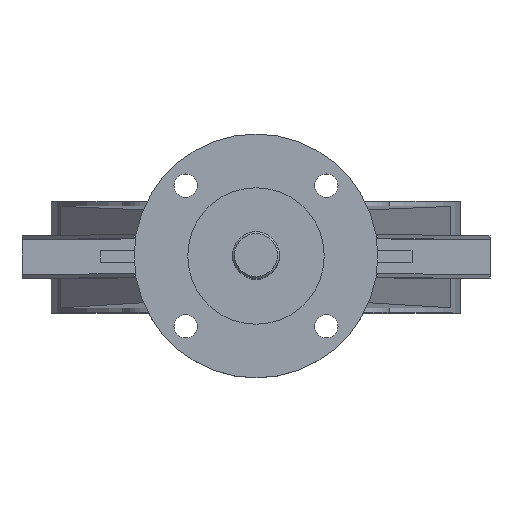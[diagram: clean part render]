
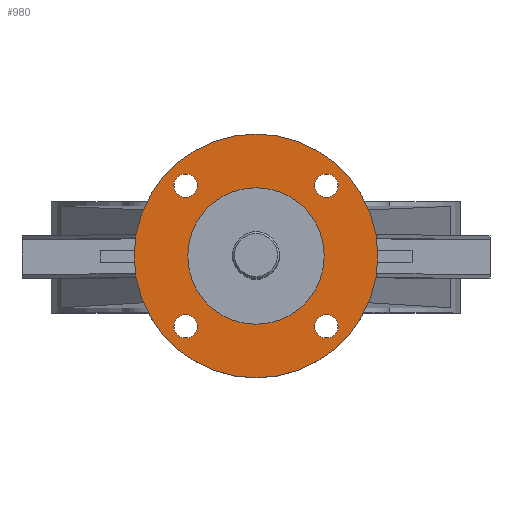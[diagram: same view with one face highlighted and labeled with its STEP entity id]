
A CAD part, top view. The second image highlights one B-rep face of the part: STEP entity #980.
In plain terms, the highlighted planar face has unit normal (0, 0, 1).
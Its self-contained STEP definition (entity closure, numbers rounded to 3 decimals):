
#980=ADVANCED_FACE('',(#2231,#2233,#2235,#2237,#2239,#2241),#2243,.T.);
#2231=FACE_BOUND('',#2232,.T.);
#2232=EDGE_LOOP('',(#3267));
#2233=FACE_BOUND('',#2234,.T.);
#2234=EDGE_LOOP('',(#3268));
#2235=FACE_BOUND('',#2236,.T.);
#2236=EDGE_LOOP('',(#3269));
#2237=FACE_BOUND('',#2238,.T.);
#2238=EDGE_LOOP('',(#3270));
#2239=FACE_BOUND('',#2240,.T.);
#2240=EDGE_LOOP('',(#3271));
#2241=FACE_BOUND('',#2242,.T.);
#2242=EDGE_LOOP('',(#3272));
#2243=PLANE('',#2244);
#2244=AXIS2_PLACEMENT_3D('',#2245,#2246,#2247);
#2245=CARTESIAN_POINT('',(0.,0.,456.));
#2246=DIRECTION('',(0.,0.,1.));
#2247=DIRECTION('',(-1.,0.,0.));
#3267=ORIENTED_EDGE('',*,*,#3683,.T.);
#3268=ORIENTED_EDGE('',*,*,#3684,.T.);
#3269=ORIENTED_EDGE('',*,*,#3685,.T.);
#3270=ORIENTED_EDGE('',*,*,#3686,.T.);
#3271=ORIENTED_EDGE('',*,*,#3807,.T.);
#3272=ORIENTED_EDGE('',*,*,#3687,.T.);
#3683=EDGE_CURVE('',#4259,#4259,#4260,.T.);
#3684=EDGE_CURVE('',#4261,#4261,#4262,.F.);
#3685=EDGE_CURVE('',#4263,#4263,#4264,.F.);
#3686=EDGE_CURVE('',#4265,#4265,#4266,.F.);
#3687=EDGE_CURVE('',#4267,#4267,#4268,.F.);
#3807=EDGE_CURVE('',#4474,#4474,#4475,.F.);
#4259=VERTEX_POINT('',#5477);
#4260=CIRCLE('',#5478,62.5);
#4261=VERTEX_POINT('',#5482);
#4262=CIRCLE('',#5483,6.);
#4263=VERTEX_POINT('',#5487);
#4264=CIRCLE('',#5488,6.);
#4265=VERTEX_POINT('',#5492);
#4266=CIRCLE('',#5493,6.);
#4267=VERTEX_POINT('',#5497);
#4268=CIRCLE('',#5498,6.);
#4474=VERTEX_POINT('',#6002);
#4475=CIRCLE('',#6003,35.);
#5477=CARTESIAN_POINT('',(-62.5,0.,456.));
#5478=AXIS2_PLACEMENT_3D('',#5479,#5480,#5481);
#5479=CARTESIAN_POINT('',(0.,0.,456.));
#5480=DIRECTION('',(0.,0.,1.));
#5481=DIRECTION('',(-1.,0.,0.));
#5482=CARTESIAN_POINT('',(-42.062,-36.062,456.));
#5483=AXIS2_PLACEMENT_3D('',#5484,#5485,#5486);
#5484=CARTESIAN_POINT('',(-36.062,-36.062,456.));
#5485=DIRECTION('',(0.,0.,1.));
#5486=DIRECTION('',(-1.,0.,0.));
#5487=CARTESIAN_POINT('',(36.062,-42.062,456.));
#5488=AXIS2_PLACEMENT_3D('',#5489,#5490,#5491);
#5489=CARTESIAN_POINT('',(36.062,-36.062,456.));
#5490=DIRECTION('',(0.,0.,1.));
#5491=DIRECTION('',(0.,-1.,0.));
#5492=CARTESIAN_POINT('',(42.062,36.062,456.));
#5493=AXIS2_PLACEMENT_3D('',#5494,#5495,#5496);
#5494=CARTESIAN_POINT('',(36.062,36.062,456.));
#5495=DIRECTION('',(0.,0.,1.));
#5496=DIRECTION('',(1.,0.,-0.));
#5497=CARTESIAN_POINT('',(-36.062,42.062,456.));
#5498=AXIS2_PLACEMENT_3D('',#5499,#5500,#5501);
#5499=CARTESIAN_POINT('',(-36.062,36.062,456.));
#5500=DIRECTION('',(0.,0.,1.));
#5501=DIRECTION('',(0.,1.,0.));
#6002=CARTESIAN_POINT('',(0.,35.,456.));
#6003=AXIS2_PLACEMENT_3D('',#6004,#6005,#6006);
#6004=CARTESIAN_POINT('',(0.,0.,456.));
#6005=DIRECTION('',(0.,0.,1.));
#6006=DIRECTION('',(0.,1.,0.));
